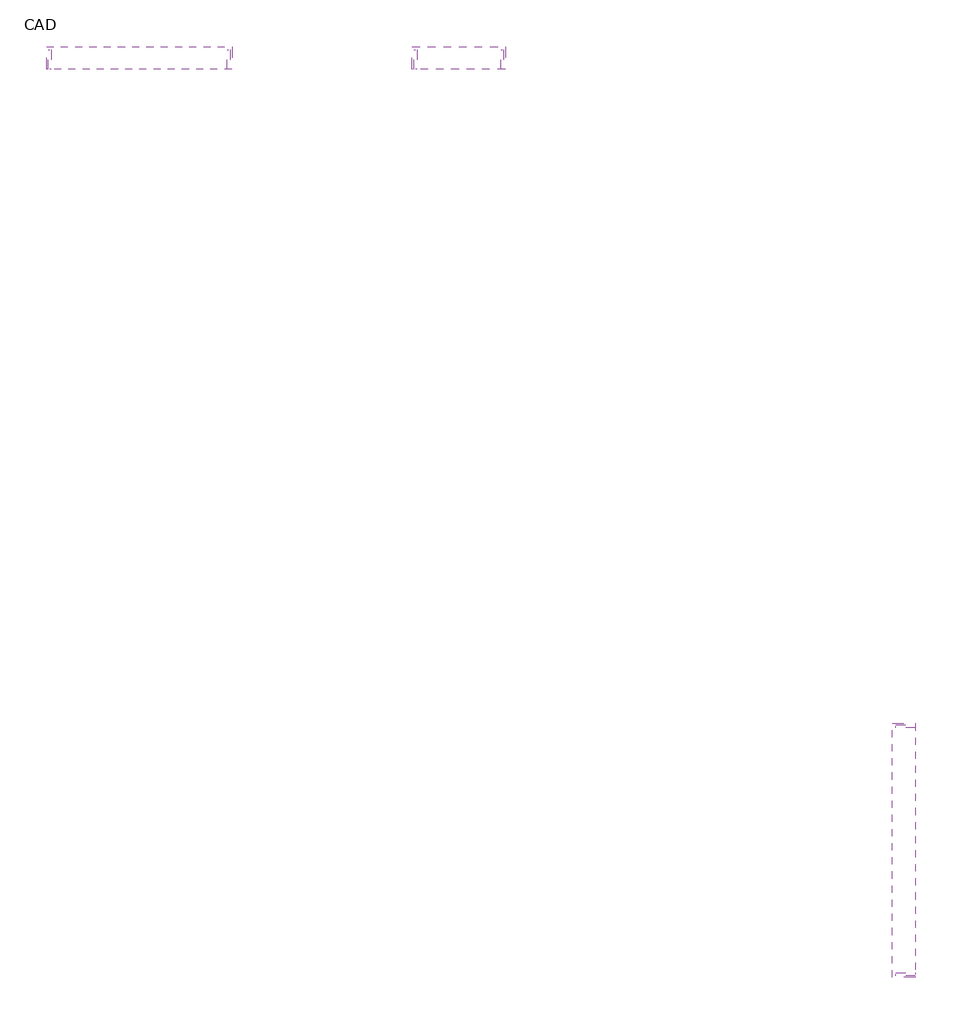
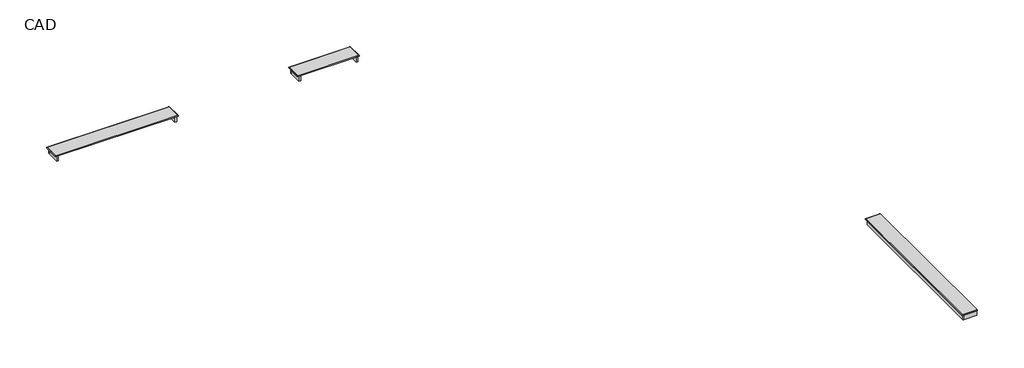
# One storey: 6 members, 3 stair flights.
"""IFC4 building model written with IfcOpenShell, lengths in millimetres."""

from ifc_helpers import new_model, si_unit, frame, origin, place, context, project, spatial, polyline, outline, extrude, transform, mapped, element, save
from components import main_stair_254e6857, main_stair_fb6af0a8, main_stair_ad759e80

model = new_model("IFC4")

# Units and contexts
model_context = context("Model", 3, world=origin())
ifc_project = project(units=[si_unit("LENGTHUNIT", "METRE", prefix="MILLI")], contexts=[model_context])

# Site, building, storey
site = spatial("IfcSite", under=ifc_project)
building = spatial("IfcBuilding", under=site)
storey = spatial("IfcBuildingStorey", under=building, Name="CAD", Elevation=-3048.0)

# Members
placement = place(None, origin())
element("IfcMember", 1, ObjectType="Carriage - 1.5\" Width", at=placement, inside=storey, context=model_context, shape_type="SweptSolid", body=[
    extrude(outline(polyline([(8235.3288706, -9964.9939898), (8235.3288706, -10003.0939898), (7974.9788706, -10003.0939898), (7974.9788706, -9964.9939898), (8235.3288706, -9964.9939898)])), frame((0.0, 0.0, -202.5904), z_axis=(0.0, 0.0, 1.0), x_axis=(1.0, 0.0, 0.0)), (0.0, 0.0, 1.0), 107.7976),
])
element("IfcMember", 2, ObjectType="Carriage - 1.5\" Width", at=placement, inside=storey, context=model_context, shape_type="SweptSolid", body=[
    extrude(outline(polyline([(8235.3288706, -13279.6939898), (8235.3288706, -13317.7939898), (7974.9788706, -13317.7939898), (7974.9788706, -13279.6939898), (8235.3288706, -13279.6939898)])), frame((0.0, 0.0, -202.5904), z_axis=(0.0, 0.0, 1.0), x_axis=(1.0, 0.0, 0.0)), (0.0, 0.0, 1.0), 107.7976),
])
element("IfcMember", 3, ObjectType="Carriage - 1.5\" Width", at=placement, inside=storey, context=model_context, shape_type="SweptSolid", body=[
    extrude(outline(polyline([(2726.7742254, -1195.6439898), (2688.6742254, -1195.6439898), (2688.6742254, -935.2939898), (2726.7742254, -935.2939898), (2726.7742254, -1195.6439898)])), frame((0.0, 0.0, -202.5904), z_axis=(0.0, 0.0, 1.0), x_axis=(1.0, 0.0, 0.0)), (0.0, 0.0, 1.0), 107.7976),
])
element("IfcMember", 4, ObjectType="Carriage - 1.5\" Width", at=placement, inside=storey, context=model_context, shape_type="SweptSolid", body=[
    extrude(outline(polyline([(1566.2609037, -1195.6439898), (1528.1609037, -1195.6439898), (1528.1609037, -935.2939898), (1566.2609037, -935.2939898), (1566.2609037, -1195.6439898)])), frame((0.0, 0.0, -202.5904), z_axis=(0.0, 0.0, 1.0), x_axis=(1.0, 0.0, 0.0)), (0.0, 0.0, 1.0), 107.7976),
])
element("IfcMember", 5, ObjectType="Carriage - 1.5\" Width", at=placement, inside=storey, context=model_context, shape_type="SweptSolid", body=[
    extrude(outline(polyline([(-934.4132624, -1195.6439898), (-972.5132624, -1195.6439898), (-972.5132624, -935.2939898), (-934.4132624, -935.2939898), (-934.4132624, -1195.6439898)])), frame((0.0, 0.0, -202.5904), z_axis=(0.0, 0.0, 1.0), x_axis=(1.0, 0.0, 0.0)), (0.0, 0.0, 1.0), 107.7976),
])
element("IfcMember", 6, ObjectType="Carriage - 1.5\" Width", at=placement, inside=storey, context=model_context, shape_type="SweptSolid", body=[
    extrude(outline(polyline([(-3328.0211294, -1195.6439898), (-3366.1211294, -1195.6439898), (-3366.1211294, -935.2939898), (-3328.0211294, -935.2939898), (-3328.0211294, -1195.6439898)])), frame((0.0, 0.0, -202.5904), z_axis=(0.0, 0.0, 1.0), x_axis=(1.0, 0.0, 0.0)), (0.0, 0.0, 1.0), 107.7976),
])

# Stair flights
main_stair_shape = main_stair_254e6857(model_context)
element("IfcStairFlight", 7, ObjectType="Main Stair", at=placement, inside=storey, context=model_context, shape_type="MappedRepresentation", body=[
    mapped(main_stair_shape, transform((0.0, 0.0, 0.0), x_axis=(1.0, 0.0, 0.0), y_axis=(0.0, 1.0, 0.0), z_axis=(0.0, 0.0, 1.0))),
])
main_stair_2_shape = main_stair_fb6af0a8(model_context)
element("IfcStairFlight", 8, ObjectType="Main Stair", at=placement, inside=storey, context=model_context, shape_type="MappedRepresentation", body=[
    mapped(main_stair_2_shape, transform((0.0, 0.0, 0.0), x_axis=(1.0, 0.0, 0.0), y_axis=(0.0, 1.0, 0.0), z_axis=(0.0, 0.0, 1.0))),
])
main_stair_3_shape = main_stair_ad759e80(model_context)
element("IfcStairFlight", 9, ObjectType="Main Stair", at=placement, inside=storey, context=model_context, shape_type="MappedRepresentation", body=[
    mapped(main_stair_3_shape, transform((0.0, 0.0, 0.0), x_axis=(1.0, 0.0, 0.0), y_axis=(0.0, 1.0, 0.0), z_axis=(0.0, 0.0, 1.0))),
])

save(model, "model.ifc")
